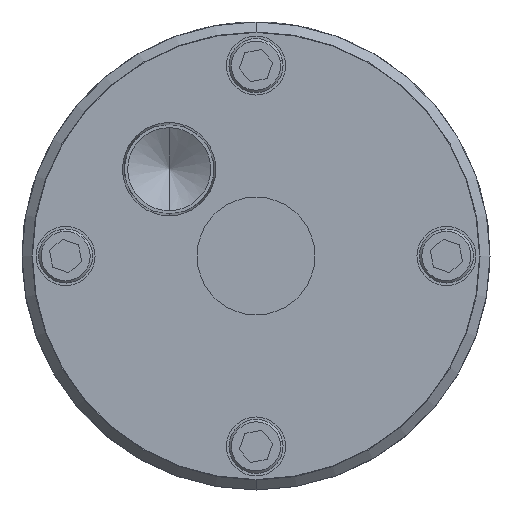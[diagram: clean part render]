
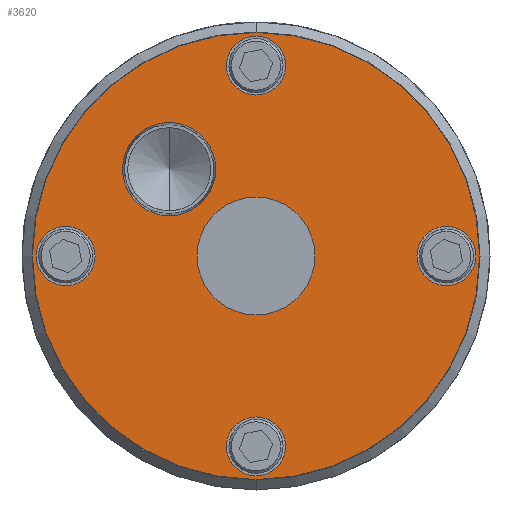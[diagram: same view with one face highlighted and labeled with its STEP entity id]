
A CAD part, front view. The second image highlights one B-rep face of the part: STEP entity #3620.
In plain terms, the highlighted planar face has unit normal (0, -1, 0).
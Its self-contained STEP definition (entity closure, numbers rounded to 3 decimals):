
#2903=CARTESIAN_POINT('',(-8.839,-69.,-8.839));
#2904=DIRECTION('',(0.,1.,0.));
#2905=DIRECTION('',(1.,0.,0.));
#2906=AXIS2_PLACEMENT_3D('',#2903,#2904,#2905);
#2911=CARTESIAN_POINT('',(-8.839,-69.,-8.839));
#2912=DIRECTION('',(0.,1.,0.));
#2913=DIRECTION('',(-1.,0.,0.));
#2914=AXIS2_PLACEMENT_3D('',#2911,#2912,#2913);
#2919=CARTESIAN_POINT('',(-19.375,-69.,0.));
#2920=DIRECTION('',(0.,1.,0.));
#2921=DIRECTION('',(1.,0.,0.));
#2922=AXIS2_PLACEMENT_3D('',#2919,#2920,#2921);
#2927=CARTESIAN_POINT('',(-19.375,-69.,0.));
#2928=DIRECTION('',(0.,1.,0.));
#2929=DIRECTION('',(-1.,0.,0.));
#2930=AXIS2_PLACEMENT_3D('',#2927,#2928,#2929);
#2935=CARTESIAN_POINT('',(0.,-69.,19.375));
#2936=DIRECTION('',(0.,1.,0.));
#2937=DIRECTION('',(1.,0.,0.));
#2938=AXIS2_PLACEMENT_3D('',#2935,#2936,#2937);
#2943=CARTESIAN_POINT('',(0.,-69.,19.375));
#2944=DIRECTION('',(0.,1.,0.));
#2945=DIRECTION('',(-1.,0.,0.));
#2946=AXIS2_PLACEMENT_3D('',#2943,#2944,#2945);
#2951=CARTESIAN_POINT('',(19.375,-69.,0.));
#2952=DIRECTION('',(0.,1.,0.));
#2953=DIRECTION('',(1.,0.,0.));
#2954=AXIS2_PLACEMENT_3D('',#2951,#2952,#2953);
#2959=CARTESIAN_POINT('',(19.375,-69.,0.));
#2960=DIRECTION('',(0.,1.,0.));
#2961=DIRECTION('',(-1.,0.,0.));
#2962=AXIS2_PLACEMENT_3D('',#2959,#2960,#2961);
#2967=CARTESIAN_POINT('',(0.,-69.,-19.375));
#2968=DIRECTION('',(0.,1.,0.));
#2969=DIRECTION('',(1.,0.,0.));
#2970=AXIS2_PLACEMENT_3D('',#2967,#2968,#2969);
#2975=CARTESIAN_POINT('',(0.,-69.,-19.375));
#2976=DIRECTION('',(0.,1.,0.));
#2977=DIRECTION('',(-1.,0.,0.));
#2978=AXIS2_PLACEMENT_3D('',#2975,#2976,#2977);
#2983=CARTESIAN_POINT('',(0.,-69.,0.));
#2984=DIRECTION('',(0.,-1.,0.));
#2985=DIRECTION('',(1.,0.,0.));
#2986=AXIS2_PLACEMENT_3D('',#2983,#2984,#2985);
#2991=CARTESIAN_POINT('',(0.,-69.,0.));
#2992=DIRECTION('',(0.,-1.,0.));
#2993=DIRECTION('',(-1.,0.,0.));
#2994=AXIS2_PLACEMENT_3D('',#2991,#2992,#2993);
#2999=CARTESIAN_POINT('',(0.,-69.,0.));
#3000=DIRECTION('',(0.,1.,0.));
#3001=DIRECTION('',(1.,0.,0.));
#3002=AXIS2_PLACEMENT_3D('',#2999,#3000,#3001);
#3007=CARTESIAN_POINT('',(0.,-69.,0.));
#3008=DIRECTION('',(0.,1.,0.));
#3009=DIRECTION('',(-1.,0.,0.));
#3010=AXIS2_PLACEMENT_3D('',#3007,#3008,#3009);
#3387=CARTESIAN_POINT('',(-4.095,-69.,-8.839));
#3388=VERTEX_POINT('',#3387);
#3389=CARTESIAN_POINT('',(-13.583,-69.,-8.839));
#3390=VERTEX_POINT('',#3389);
#3413=CARTESIAN_POINT('',(-16.375,-69.,0.));
#3414=VERTEX_POINT('',#3413);
#3415=CARTESIAN_POINT('',(-22.375,-69.,0.));
#3416=VERTEX_POINT('',#3415);
#3429=CARTESIAN_POINT('',(3.,-69.,19.375));
#3430=VERTEX_POINT('',#3429);
#3431=CARTESIAN_POINT('',(-3.,-69.,19.375));
#3432=VERTEX_POINT('',#3431);
#3445=CARTESIAN_POINT('',(22.375,-69.,0.));
#3446=CARTESIAN_POINT('',(16.375,-69.,0.));
#3447=VERTEX_POINT('',#3445);
#3448=VERTEX_POINT('',#3446);
#3450=CARTESIAN_POINT('',(22.75,-69.,0.));
#3452=VERTEX_POINT('',#3450);
#3459=CARTESIAN_POINT('',(3.,-69.,-19.375));
#3460=CARTESIAN_POINT('',(-3.,-69.,-19.375));
#3461=VERTEX_POINT('',#3459);
#3462=VERTEX_POINT('',#3460);
#3463=CARTESIAN_POINT('',(-6.,-69.,0.));
#3464=VERTEX_POINT('',#3463);
#3465=CARTESIAN_POINT('',(-22.75,-69.,0.));
#3466=VERTEX_POINT('',#3465);
#3475=CARTESIAN_POINT('',(6.,-69.,0.));
#3476=VERTEX_POINT('',#3475);
#3575=CARTESIAN_POINT('',(0.,-69.,0.));
#3576=DIRECTION('',(0.,1.,0.));
#3577=DIRECTION('',(1.,0.,0.));
#3578=AXIS2_PLACEMENT_3D('',#3575,#3576,#3577);
#3579=PLANE('',#3578);
#3581=ORIENTED_EDGE('',*,*,#3580,.F.);
#3583=ORIENTED_EDGE('',*,*,#3582,.F.);
#3584=EDGE_LOOP('',(#3581,#3583));
#3585=FACE_OUTER_BOUND('',#3584,.F.);
#3587=ORIENTED_EDGE('',*,*,#3586,.F.);
#3589=ORIENTED_EDGE('',*,*,#3588,.F.);
#3590=EDGE_LOOP('',(#3587,#3589));
#3591=FACE_BOUND('',#3590,.F.);
#3593=ORIENTED_EDGE('',*,*,#3592,.F.);
#3595=ORIENTED_EDGE('',*,*,#3594,.F.);
#3596=EDGE_LOOP('',(#3593,#3595));
#3597=FACE_BOUND('',#3596,.F.);
#3599=ORIENTED_EDGE('',*,*,#3598,.F.);
#3601=ORIENTED_EDGE('',*,*,#3600,.F.);
#3602=EDGE_LOOP('',(#3599,#3601));
#3603=FACE_BOUND('',#3602,.F.);
#3605=ORIENTED_EDGE('',*,*,#3604,.F.);
#3607=ORIENTED_EDGE('',*,*,#3606,.F.);
#3608=EDGE_LOOP('',(#3605,#3607));
#3609=FACE_BOUND('',#3608,.F.);
#3610=ORIENTED_EDGE('',*,*,#3568,.F.);
#3611=ORIENTED_EDGE('',*,*,#3486,.F.);
#3612=EDGE_LOOP('',(#3610,#3611));
#3613=FACE_BOUND('',#3612,.F.);
#3615=ORIENTED_EDGE('',*,*,#3614,.F.);
#3617=ORIENTED_EDGE('',*,*,#3616,.F.);
#3618=EDGE_LOOP('',(#3615,#3617));
#3619=FACE_BOUND('',#3618,.F.);
#2907=CIRCLE('',#2906,4.744);
#2915=CIRCLE('',#2914,4.744);
#2923=CIRCLE('',#2922,3.);
#2931=CIRCLE('',#2930,3.);
#2939=CIRCLE('',#2938,3.);
#2947=CIRCLE('',#2946,3.);
#2955=CIRCLE('',#2954,3.);
#2963=CIRCLE('',#2962,3.);
#2971=CIRCLE('',#2970,3.);
#2979=CIRCLE('',#2978,3.);
#2987=CIRCLE('',#2986,22.75);
#2995=CIRCLE('',#2994,22.75);
#3003=CIRCLE('',#3002,6.);
#3011=CIRCLE('',#3010,6.);
#3486=EDGE_CURVE('',#3390,#3388,#2915,.T.);
#3568=EDGE_CURVE('',#3388,#3390,#2907,.T.);
#3580=EDGE_CURVE('',#3452,#3466,#2987,.T.);
#3582=EDGE_CURVE('',#3466,#3452,#2995,.T.);
#3586=EDGE_CURVE('',#3414,#3416,#2923,.T.);
#3588=EDGE_CURVE('',#3416,#3414,#2931,.T.);
#3592=EDGE_CURVE('',#3430,#3432,#2939,.T.);
#3594=EDGE_CURVE('',#3432,#3430,#2947,.T.);
#3598=EDGE_CURVE('',#3447,#3448,#2955,.T.);
#3600=EDGE_CURVE('',#3448,#3447,#2963,.T.);
#3604=EDGE_CURVE('',#3461,#3462,#2971,.T.);
#3606=EDGE_CURVE('',#3462,#3461,#2979,.T.);
#3614=EDGE_CURVE('',#3476,#3464,#3003,.T.);
#3616=EDGE_CURVE('',#3464,#3476,#3011,.T.);
#3620=ADVANCED_FACE('',(#3585,#3591,#3597,#3603,#3609,#3613,#3619),#3579,.F.);
